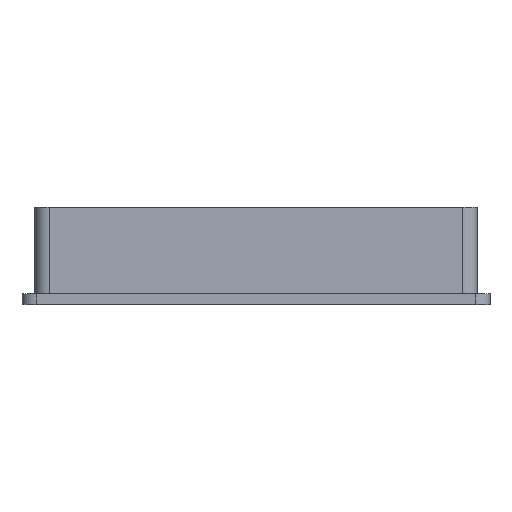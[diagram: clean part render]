
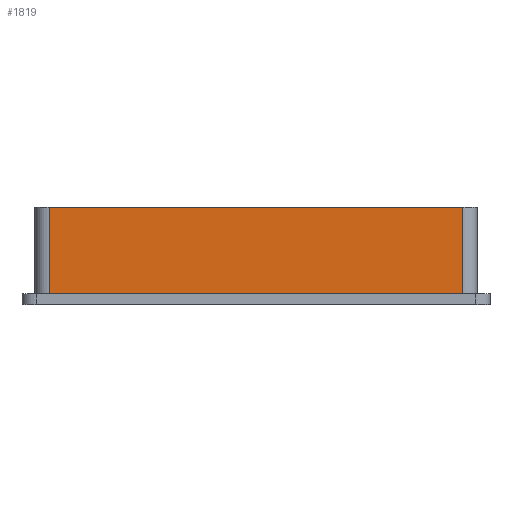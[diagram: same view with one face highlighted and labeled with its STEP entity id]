
A CAD part, top view. The second image highlights one B-rep face of the part: STEP entity #1819.
In plain terms, the highlighted planar face has unit normal (0, 0, 1).
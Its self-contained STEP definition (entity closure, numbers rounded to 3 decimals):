
#10 = VECTOR ( 'NONE', #1758, 1000. ) ;
#67 = CARTESIAN_POINT ( 'NONE',  ( -21.5, 1.1, 11.55 ) ) ;
#469 = VECTOR ( 'NONE', #2038, 1000. ) ;
#545 = LINE ( 'NONE', #2064, #469 ) ;
#659 = CARTESIAN_POINT ( 'NONE',  ( 21.5, 1.1, 11.55 ) ) ;
#797 = LINE ( 'NONE', #2592, #10 ) ;
#853 = DIRECTION ( 'NONE',  ( 1., 0., 0. ) ) ;
#970 = EDGE_CURVE ( 'NONE', #3399, #2015, #545, .T. ) ;
#1104 = CARTESIAN_POINT ( 'NONE',  ( 21.5, 10.1, 11.55 ) ) ;
#1360 = ORIENTED_EDGE ( 'NONE', *, *, #1556, .F. ) ;
#1485 = DIRECTION ( 'NONE',  ( 0., 1., 0. ) ) ;
#1556 = EDGE_CURVE ( 'NONE', #3399, #1937, #2678, .T. ) ;
#1585 = VECTOR ( 'NONE', #853, 1000. ) ;
#1758 = DIRECTION ( 'NONE',  ( 1., 0., 0. ) ) ;
#1819 = ADVANCED_FACE ( 'NONE', ( #2286 ), #3454, .F. ) ;
#1857 = ORIENTED_EDGE ( 'NONE', *, *, #970, .T. ) ;
#1920 = CARTESIAN_POINT ( 'NONE',  ( -23., 10.1, 11.55 ) ) ;
#1937 = VERTEX_POINT ( 'NONE', #1104 ) ;
#2005 = CARTESIAN_POINT ( 'NONE',  ( -23., 10.1, 11.55 ) ) ;
#2015 = VERTEX_POINT ( 'NONE', #67 ) ;
#2027 = EDGE_CURVE ( 'NONE', #2015, #3588, #797, .T. ) ;
#2038 = DIRECTION ( 'NONE',  ( 0., -1., 0. ) ) ;
#2064 = CARTESIAN_POINT ( 'NONE',  ( -21.5, 10.1, 11.55 ) ) ;
#2175 = CARTESIAN_POINT ( 'NONE',  ( -21.5, 10.1, 11.55 ) ) ;
#2286 = FACE_OUTER_BOUND ( 'NONE', #2763, .T. ) ;
#2394 = DIRECTION ( 'NONE',  ( 0., 0., -1. ) ) ;
#2451 = CARTESIAN_POINT ( 'NONE',  ( 21.5, 10.1, 11.55 ) ) ;
#2592 = CARTESIAN_POINT ( 'NONE',  ( -23., 1.1, 11.55 ) ) ;
#2678 = LINE ( 'NONE', #2005, #1585 ) ;
#2763 = EDGE_LOOP ( 'NONE', ( #1360, #1857, #3282, #3976 ) ) ;
#3282 = ORIENTED_EDGE ( 'NONE', *, *, #2027, .T. ) ;
#3333 = EDGE_CURVE ( 'NONE', #3588, #1937, #3445, .T. ) ;
#3399 = VERTEX_POINT ( 'NONE', #2175 ) ;
#3433 = VECTOR ( 'NONE', #1485, 1000. ) ;
#3445 = LINE ( 'NONE', #2451, #3433 ) ;
#3454 = PLANE ( 'NONE',  #3575 ) ;
#3462 = DIRECTION ( 'NONE',  ( -1., 0., 0. ) ) ;
#3575 = AXIS2_PLACEMENT_3D ( 'NONE', #1920, #2394, #3462 ) ;
#3588 = VERTEX_POINT ( 'NONE', #659 ) ;
#3976 = ORIENTED_EDGE ( 'NONE', *, *, #3333, .T. ) ;
